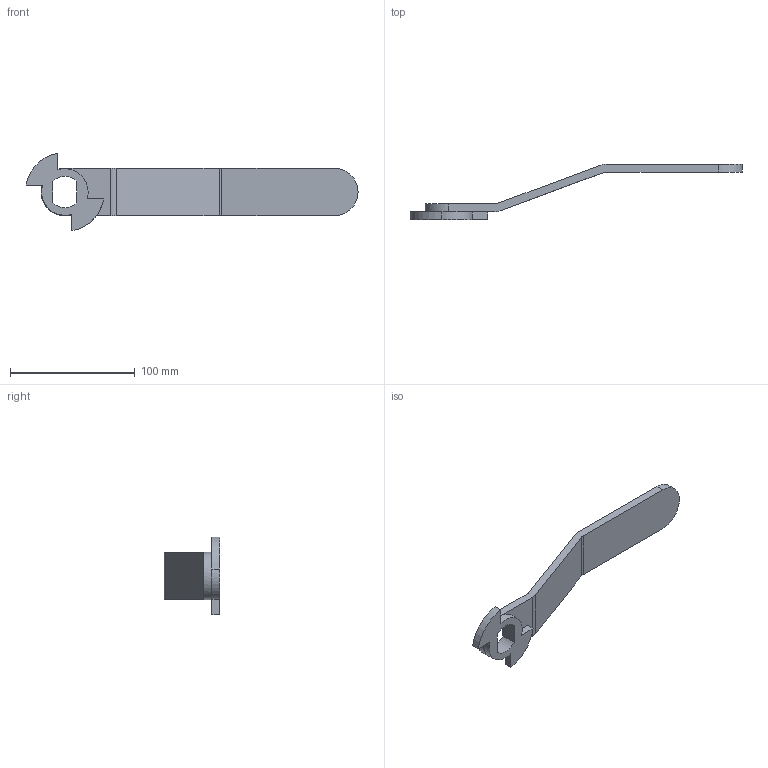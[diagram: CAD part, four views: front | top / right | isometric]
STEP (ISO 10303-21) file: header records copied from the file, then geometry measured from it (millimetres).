
FILE_DESCRIPTION(/* description */ ('Alibre Inc.'),/* implementation_level */ '2;1');
FILE_NAME(/* name */ 'export0',/* time_stamp */ '2017-10-09T14:56:26-04:00',/* author */ (''),/* organization */ (''),/* preprocessor_version */ 'ST-DEVELOPER v14',/* originating_system */ 'Alibre',/* authorisation */ '');
FILE_SCHEMA (('CONFIG_CONTROL_DESIGN'));
Length unit declared in the file: centimetre
Products named in the file (1): ID_1
Bounding box: 266.1 x 44.45 x 62.3 mm (x, y, z)
Volume: 66646.5 mm3; surface area: 25194.1 mm2
Topology: 1 solids, 1 shells, 30 faces, 80 edges, 52 vertices
Faces by surface type: plane 18, cylinder 12
Entity records: 984 total; most frequent: ORIENTED_EDGE 160, CARTESIAN_POINT 156, DIRECTION 141, EDGE_CURVE 80, AXIS2_PLACEMENT_3D 53, VERTEX_POINT 52, VECTOR 51, LINE 51
